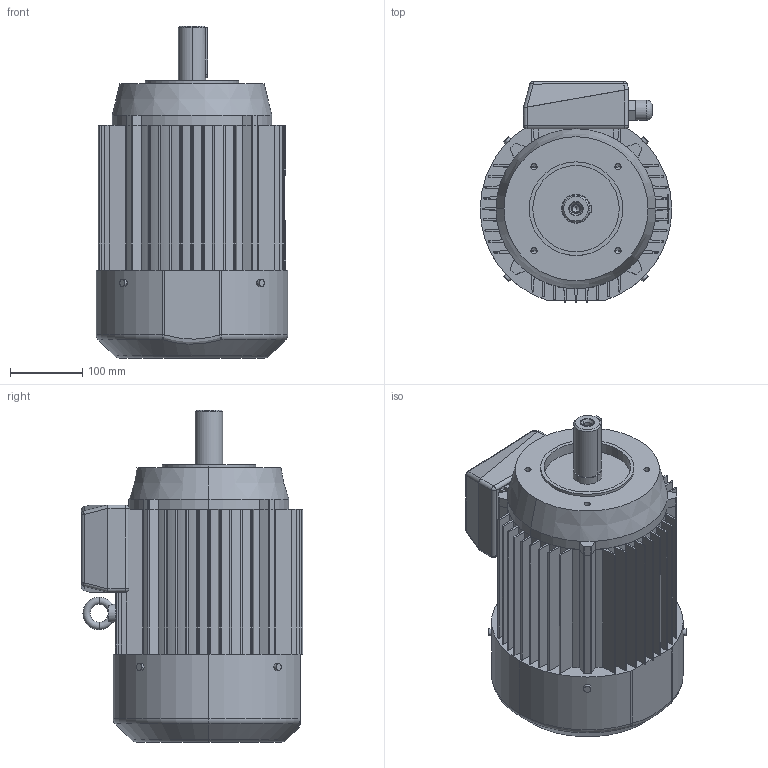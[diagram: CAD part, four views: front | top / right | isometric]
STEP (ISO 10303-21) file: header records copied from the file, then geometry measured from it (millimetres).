
FILE_DESCRIPTION (( 'STEP AP203' ), '1' );
FILE_NAME ('SKg 132S-B14-C2.STEP', '2010-02-09T12:39:22', ( 'INDUKTA' ), ( 'CANTONI MOTOR' ), 'SwSTEP 2.0', 'SolidWorks 2003064', '' );
FILE_SCHEMA (( 'CONFIG_CONTROL_DESIGN' ));
Length unit declared in the file: millimetre
Products named in the file (1): SKg 132S-B14-C2
Bounding box: 266 x 306.99 x 461 mm (x, y, z)
Volume: 18037158.4 mm3; surface area: 905106.2 mm2
Topology: 12 solids, 12 shells, 502 faces, 1338 edges, 851 vertices
Faces by surface type: plane 230, cylinder 184, bspline 43, cone 22, torus 13, sphere 10
Entity records: 19150 total; most frequent: CARTESIAN_POINT 6724, ORIENTED_EDGE 2636, DIRECTION 2518, EDGE_CURVE 1318, AXIS2_PLACEMENT_3D 861, VERTEX_POINT 851, LINE 796, VECTOR 796
